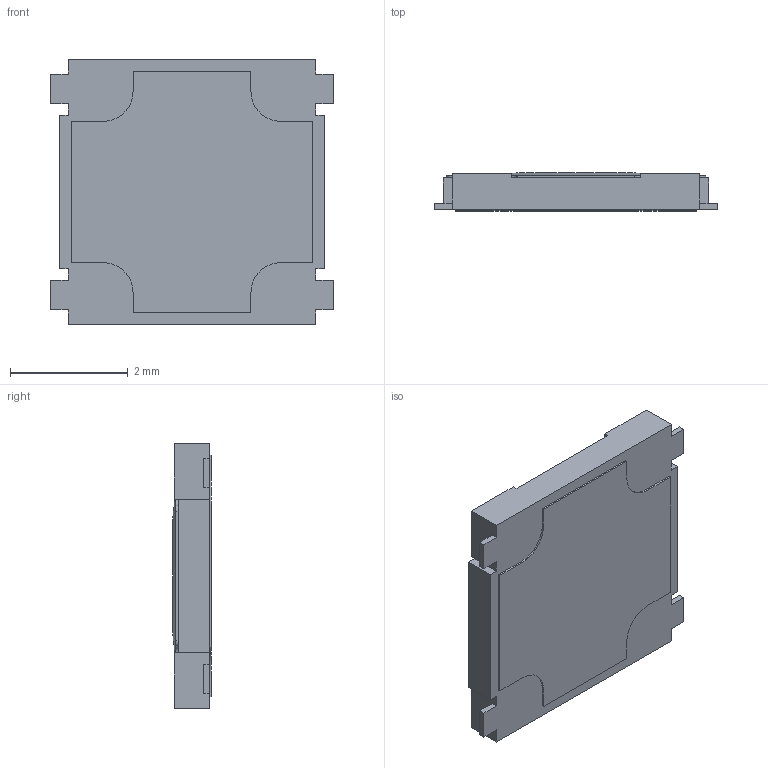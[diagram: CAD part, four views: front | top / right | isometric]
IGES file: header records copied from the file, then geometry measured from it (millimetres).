
Start section:  PTC IGES file: NTC033-XY1G-X600T.igs
Global section: file name: NTC033-XY1G-X600T.igs; native system: Pro/ENGINEER by Parametric Technology Corporation; preprocessor: 2008230; author: Rd_Ken; organization: Unknown; date: 20120907.143158; units: millimetre
Bounding box: 4.8 x 0.65 x 4.5 mm (x, y, z)
Volume: 12 mm3; surface area: 52.7 mm2
Topology: 1 solids, 1 shells, 111 faces, 314 edges, 208 vertices
Faces by surface type: bspline 85, revolution 26
